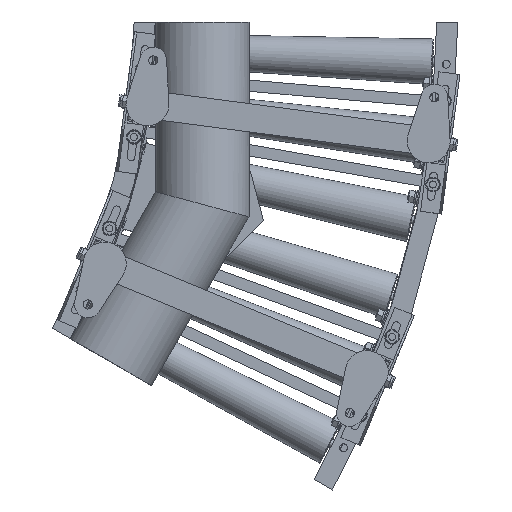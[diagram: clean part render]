
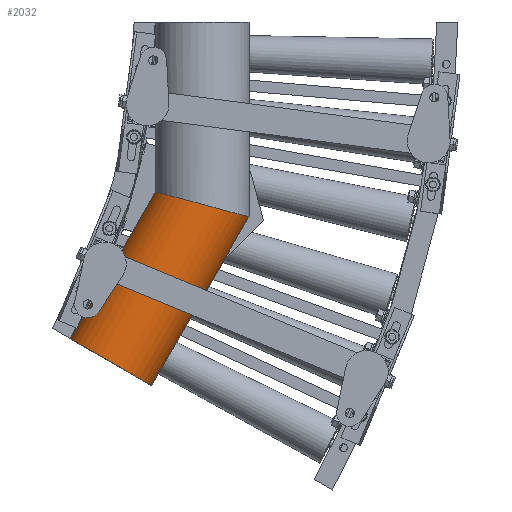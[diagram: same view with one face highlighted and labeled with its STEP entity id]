
A CAD part, front view. The second image highlights one B-rep face of the part: STEP entity #2032.
In plain terms, the highlighted cylindrical face has radius 67.024 mm (diameter 134.048 mm), a partial arc.
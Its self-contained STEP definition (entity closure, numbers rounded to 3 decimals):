
#2032=ADVANCED_FACE('',(#13175),#13174,.T.);
#13174=CYLINDRICAL_SURFACE('',#30566,67.024);
#13175=FACE_OUTER_BOUND('',#30567,.T.);
#30563=CARTESIAN_POINT('',(975.883,-156.676,-243.722));
#30564=DIRECTION('',(0.5,0.,0.866));
#30565=DIRECTION('',(0.866,0.,-0.5));
#30566=AXIS2_PLACEMENT_3D('',#30563,#30564,#30565);
#30567=EDGE_LOOP('',(#41335,#41336,#41337,#41338));
#41335=ORIENTED_EDGE('',*,*,#49637,.T.);
#41336=ORIENTED_EDGE('',*,*,#49638,.T.);
#41337=ORIENTED_EDGE('',*,*,#49639,.T.);
#41338=ORIENTED_EDGE('',*,*,#49632,.F.);
#49632=EDGE_CURVE('',#67518,#67525,#67526,.T.);
#49637=EDGE_CURVE('',#67518,#67558,#67559,.T.);
#49638=EDGE_CURVE('',#67558,#67565,#67566,.T.);
#49639=EDGE_CURVE('',#67565,#67525,#67572,.T.);
#67518=VERTEX_POINT('',#98203);
#67525=VERTEX_POINT('',#98207);
#67526=LINE('',#98208,#98209);
#67558=VERTEX_POINT('',#98225);
#67559=(BOUNDED_CURVE() B_SPLINE_CURVE(2,(#98226,#98227,#98228,#98229,#98230),.UNSPECIFIED.,.F.,.F.) B_SPLINE_CURVE_WITH_KNOTS((3,2,3),(0.147,1.571,2.994),.UNSPECIFIED.) CURVE() GEOMETRIC_REPRESENTATION_ITEM() RATIONAL_B_SPLINE_CURVE((1.,0.757,1.,0.757,1.)) REPRESENTATION_ITEM('') );
#67565=VERTEX_POINT('',#98231);
#67566=LINE('',#98232,#98233);
#67572=CIRCLE('',#98238,67.024);
#98203=CARTESIAN_POINT('',(1033.3,-166.5,-276.872));
#98207=CARTESIAN_POINT('',(894.864,-166.5,-516.65));
#98208=CARTESIAN_POINT('',(1033.3,-166.5,-276.872));
#98209=VECTOR('',#98210,276.872);
#98210=DIRECTION('',(-0.5,0.,-0.866));
#98225=CARTESIAN_POINT('',(900.7,-166.5,-241.342));
#98226=CARTESIAN_POINT('',(1033.3,-166.5,-276.872));
#98227=CARTESIAN_POINT('',(1024.825,-223.7,-274.601));
#98228=CARTESIAN_POINT('',(967.,-223.7,-259.107));
#98229=CARTESIAN_POINT('',(909.175,-223.7,-243.613));
#98230=CARTESIAN_POINT('',(900.7,-166.5,-241.342));
#98231=CARTESIAN_POINT('',(780.029,-166.5,-450.35));
#98232=CARTESIAN_POINT('',(900.7,-166.5,-241.342));
#98233=VECTOR('',#98234,241.342);
#98234=DIRECTION('',(-0.5,0.,-0.866));
#98235=CARTESIAN_POINT('',(837.447,-156.676,-483.5));
#98236=DIRECTION('',(0.5,0.,0.866));
#98237=DIRECTION('',(-0.866,0.,0.5));
#98238=AXIS2_PLACEMENT_3D('',#98235,#98236,#98237);
